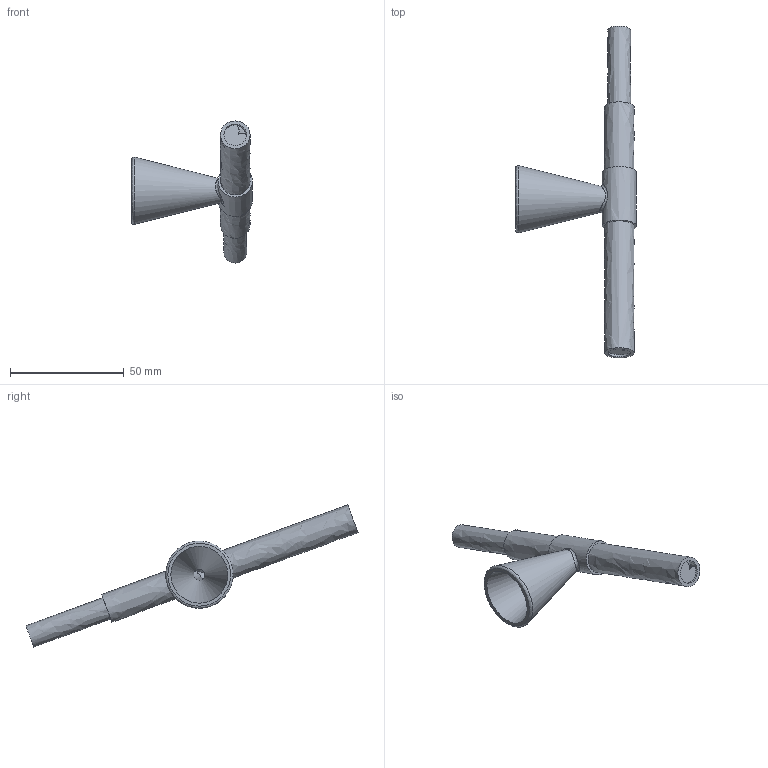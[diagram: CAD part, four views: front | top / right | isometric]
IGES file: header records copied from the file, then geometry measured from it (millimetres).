
Start section: Data from Parasolid IGES Translator 21.0.47, Copyright(c) 2006 Siemens P LM Software. All Rights Reserved.
Global section: file name: 5a744d96a5735f1002762fbc.iges; native system: By Siemens PLM Incorporated; preprocessor: XPlus GENERIC/IGES 21.0.47; author: Noname; organization: Noname; date: 20180202.113759; units: metre
Bounding box: 53.01 x 145.8 x 62.44 mm (x, y, z)
Surface area: 20707.7 mm2 (no closed solid volume)
Topology: 0 solids, 0 shells, 37 faces, 508 edges, 498 vertices
Faces by surface type: revolution 22, extrusion 12, bspline 3
